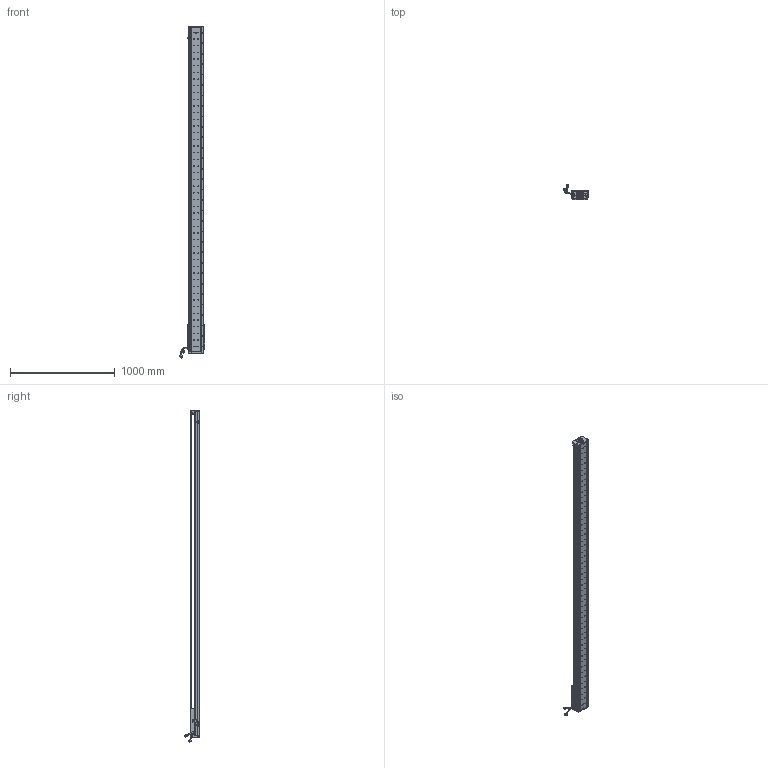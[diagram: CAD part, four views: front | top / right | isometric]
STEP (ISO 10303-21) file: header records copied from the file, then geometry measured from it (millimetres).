
FILE_DESCRIPTION (( 'STEP AP203' ), '1' );
FILE_NAME ('Z3-RY140D-1-L500-B-K.SLDASM_2800.step', '2021-05-17T08:06:39', ( '盈信电脑' ), ( '东莞市道滘镇水果街19号' ), 'SwSTEP 2.0', 'SolidWorks 2016', '' );
FILE_SCHEMA (( 'CONFIG_CONTROL_DESIGN' ));
Length unit declared in the file: millimetre
Products named in the file (36): SCALE; Z3-RY140圉猾敕臏賑輸(21遴); 140-Z-臏賑輸盄裔(21遴); SCREW-M1.6; 榋妏寠巭燃_暯_M2_2; SCALE-Part-2; SCREW-M1.6-1; SCREW-M1.6-3; Z3-RY140-L500直线电机模组底座_2800; SCREW-M1.7-1; PSLH080_PSLF2; Z-RY140詩湍狟揤裔; 140雄赽晤鎢ん堤盄; COVER-Part-1; Z-RY140詩湍奻揤裔; SCREW-M1.6-2; 140蚥薯蝶輸; SEAL; PBU_SHEET; Z-RY140感应器672光电感应片; HOLDER0; HARNESS-Part-2; SCALE-Part-1; LABEL; Z3-RY140D-1-L500-B-K.SLDASM_2800; HARNESS-Part-1; 覜茼ん672; Z-140詩湍傷裔啣; SHIELDPLATE; LABEL-Part-1; COVER; SEAL-Part-1; Z3-RY140-L500詩湍100mm遵_2800; 080黍杅芛假蚾釱21遴; HARNESS; SCREW-M1.7
Assembly tree (41 placements, depth 4):
  Z3-RY140D-1-L500-B-K.SLDASM_2800
    Z3-RY140-L500直线电机模组底座_2800
    Z-RY140感应器672光电感应片
    Z3-RY140圉猾敕臏賑輸(21遴)
    覜茼ん672  x3
    Z3-RY140-L500詩湍100mm遵_2800
    PSLH080_PSLF2
      SCALE
        SCALE-Part-1
        SCALE-Part-2
      HARNESS
        HARNESS-Part-1
        HARNESS-Part-2
      LABEL
        LABEL-Part-1
      COVER
        COVER-Part-1
      SEAL
        SEAL-Part-1
      榋妏寠巭燃_暯_M2_2
      SHIELDPLATE
      SCREW-M1.7
      SCREW-M1.7-1
      PBU_SHEET
      SCREW-M1.6
      SCREW-M1.6-1
      SCREW-M1.6-2
      SCREW-M1.6-3
      HOLDER0
    080黍杅芛假蚾釱21遴
    140-Z-臏賑輸盄裔(21遴)
    Z-140詩湍傷裔啣  x2
    Z-RY140詩湍狟揤裔  x2
    Z-RY140詩湍奻揤裔  x2
    140蚥薯蝶輸  x2
    140雄赽晤鎢ん堤盄
Bounding box: 239.79 x 143.88 x 3175.87 mm (x, y, z)
Volume: 9991982.8 mm3; surface area: 2606934 mm2
Topology: 36 solids, 36 shells, 4490 faces, 12294 edges, 7787 vertices
Faces by surface type: cylinder 2492, plane 1438, cone 438, torus 69, bspline 53
Entity records: 144730 total; most frequent: CARTESIAN_POINT 41723, ORIENTED_EDGE 21436, DIRECTION 19590, EDGE_CURVE 10718, AXIS2_PLACEMENT_3D 7302, VERTEX_POINT 6955, LINE 4986, VECTOR 4986
